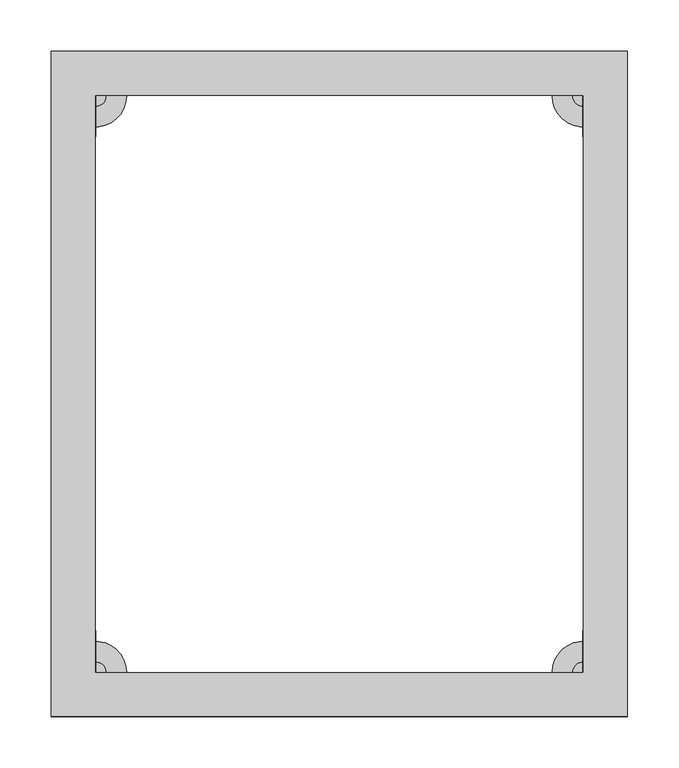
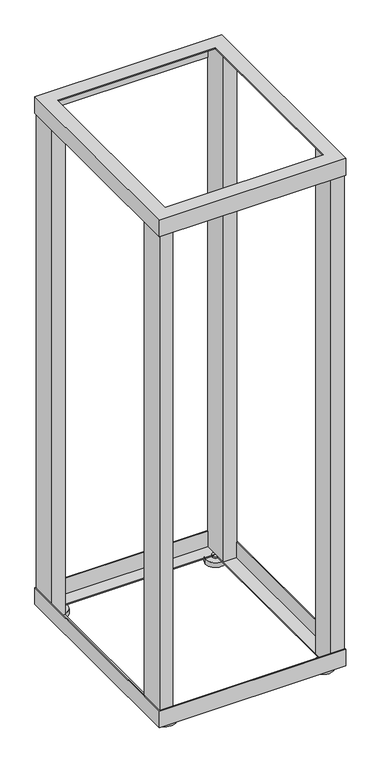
"""IFC4 building model written with IfcOpenShell, lengths in millimetres: proxy geometry, Шкафы ITK серия F : LF05-33U68-2R."""

from ifc_helpers import new_model, si_unit, point, frame, frame_2d, origin, origin_with_axes, place, context, project, spatial, polyline, circle_curve, trimmed, segment, composite_curve, outline, extrude, faceted_brep, source, transform, mapped, element, save


def electrical_fixtures_9c712314(model_context):
    return source(origin(), model_context, "Body", "SolidModel", [
        extrude(outline(composite_curve([segment(trimmed(circle_curve(frame_2d((-237.0, 280.0)), 10.0), [point((-227.0, 280.0))], [point((-247.0, 280.0))], False, "CARTESIAN"), True, "CONTINUOUS"), segment(trimmed(circle_curve(frame_2d((-237.0, 280.0)), 10.0), [point((-247.0, 280.0))], [point((-227.0, 280.0))], False, "CARTESIAN"), True, "CONTINUOUS")], self_intersect=False)), frame((0.0, 0.0, 15.0), z_axis=(0.0, 0.0, 1.0), x_axis=(1.0, 0.0, 0.0)), (0.0, 0.0, 1.0), 5.0),
        extrude(outline(composite_curve([segment(trimmed(circle_curve(frame_2d((237.0, 280.0)), 10.0), [point((247.0, 280.0))], [point((227.0, 280.0))], False, "CARTESIAN"), True, "CONTINUOUS"), segment(trimmed(circle_curve(frame_2d((237.0, 280.0)), 10.0), [point((227.0, 280.0))], [point((247.0, 280.0))], False, "CARTESIAN"), True, "CONTINUOUS")], self_intersect=False)), frame((0.0, 0.0, 15.0), z_axis=(0.0, 0.0, 1.0), x_axis=(1.0, 0.0, 0.0)), (0.0, 0.0, 1.0), 5.0),
        extrude(outline(composite_curve([segment(trimmed(circle_curve(frame_2d((-237.0, -280.0)), 10.0), [point((-227.0, -280.0))], [point((-247.0, -280.0))], False, "CARTESIAN"), True, "CONTINUOUS"), segment(trimmed(circle_curve(frame_2d((-237.0, -280.0)), 10.0), [point((-247.0, -280.0))], [point((-227.0, -280.0))], False, "CARTESIAN"), True, "CONTINUOUS")], self_intersect=False)), frame((0.0, 0.0, 15.0), z_axis=(0.0, 0.0, 1.0), x_axis=(1.0, 0.0, 0.0)), (0.0, 0.0, 1.0), 5.0),
        extrude(outline(composite_curve([segment(trimmed(circle_curve(frame_2d((237.0, -280.0)), 10.0), [point((247.0, -280.0))], [point((227.0, -280.0))], False, "CARTESIAN"), True, "CONTINUOUS"), segment(trimmed(circle_curve(frame_2d((237.0, -280.0)), 10.0), [point((227.0, -280.0))], [point((247.0, -280.0))], False, "CARTESIAN"), True, "CONTINUOUS")], self_intersect=False)), frame((0.0, 0.0, 15.0), z_axis=(0.0, 0.0, 1.0), x_axis=(1.0, 0.0, 0.0)), (0.0, 0.0, 1.0), 5.0),
        extrude(outline(composite_curve([segment(trimmed(circle_curve(frame_2d((-237.0, 280.0)), 30.0), [point((-207.0, 280.0))], [point((-267.0, 280.0))], False, "CARTESIAN"), True, "CONTINUOUS"), segment(trimmed(circle_curve(frame_2d((-237.0, 280.0)), 30.0), [point((-267.0, 280.0))], [point((-207.0, 280.0))], False, "CARTESIAN"), True, "CONTINUOUS")], self_intersect=False)), origin_with_axes(), (0.0, 0.0, 1.0), 15.0),
        extrude(outline(composite_curve([segment(trimmed(circle_curve(frame_2d((237.0, 280.0)), 30.0), [point((267.0, 280.0))], [point((207.0, 280.0))], False, "CARTESIAN"), True, "CONTINUOUS"), segment(trimmed(circle_curve(frame_2d((237.0, 280.0)), 30.0), [point((207.0, 280.0))], [point((267.0, 280.0))], False, "CARTESIAN"), True, "CONTINUOUS")], self_intersect=False)), origin_with_axes(), (0.0, 0.0, 1.0), 15.0),
        extrude(outline(composite_curve([segment(trimmed(circle_curve(frame_2d((-237.0, -280.0)), 30.0), [point((-207.0, -280.0))], [point((-267.0, -280.0))], False, "CARTESIAN"), True, "CONTINUOUS"), segment(trimmed(circle_curve(frame_2d((-237.0, -280.0)), 30.0), [point((-267.0, -280.0))], [point((-207.0, -280.0))], False, "CARTESIAN"), True, "CONTINUOUS")], self_intersect=False)), origin_with_axes(), (0.0, 0.0, 1.0), 15.0),
        extrude(outline(composite_curve([segment(trimmed(circle_curve(frame_2d((237.0, -280.0)), 30.0), [point((267.0, -280.0))], [point((207.0, -280.0))], False, "CARTESIAN"), True, "CONTINUOUS"), segment(trimmed(circle_curve(frame_2d((237.0, -280.0)), 30.0), [point((207.0, -280.0))], [point((267.0, -280.0))], False, "CARTESIAN"), True, "CONTINUOUS")], self_intersect=False)), origin_with_axes(), (0.0, 0.0, 1.0), 15.0),
        faceted_brep([(237.0, 280.0, 1627.0), (237.0, 280.0, 1624.0), (237.0, -280.0, 1624.0), (237.0, -280.0, 1627.0), (280.0, 323.0, 1574.0), (280.0, 323.0, 1627.0), (280.0, -323.0, 1627.0), (280.0, -323.0, 1574.0), (277.0, 320.0, 1624.0), (277.0, 320.0, 1574.0), (277.0, -320.0, 1574.0), (277.0, -320.0, 1624.0), (-237.0, -280.0, 1624.0), (-237.0, -280.0, 1627.0), (-280.0, -323.0, 1627.0), (-280.0, -323.0, 1574.0), (-277.0, -320.0, 1574.0), (-277.0, -320.0, 1624.0), (-237.0, 280.0, 1624.0), (-237.0, 280.0, 1627.0), (-280.0, 323.0, 1627.0), (-280.0, 323.0, 1574.0), (-277.0, 320.0, 1574.0), (-277.0, 320.0, 1624.0)], [[[0, 1, 2, 3]], [[4, 5, 6, 7]], [[8, 9, 10, 11]], [[3, 2, 12, 13]], [[7, 6, 14, 15]], [[11, 10, 16, 17]], [[13, 12, 18, 19]], [[15, 14, 20, 21]], [[17, 16, 22, 23]], [[19, 18, 1, 0]], [[5, 20, 14, 6], [3, 13, 19, 0]], [[21, 20, 5, 4]], [[7, 15, 21, 4], [9, 22, 16, 10]], [[23, 22, 9, 8]], [[11, 17, 23, 8], [1, 18, 12, 2]]]),
        faceted_brep([(280.0, 323.0, 17.0), (280.0, 323.0, 70.0), (280.0, -323.0, 70.0), (280.0, -323.0, 17.0), (237.0, 280.0, 20.0), (237.0, 280.0, 17.0), (237.0, -280.0, 17.0), (237.0, -280.0, 20.0), (277.0, 320.0, 70.0), (277.0, 320.0, 20.0), (277.0, -320.0, 20.0), (277.0, -320.0, 70.0), (-280.0, -323.0, 70.0), (-280.0, -323.0, 17.0), (-237.0, -280.0, 17.0), (-237.0, -280.0, 20.0), (-277.0, -320.0, 20.0), (-277.0, -320.0, 70.0), (-280.0, 323.0, 70.0), (-280.0, 323.0, 17.0), (-237.0, 280.0, 17.0), (-237.0, 280.0, 20.0), (-277.0, 320.0, 20.0), (-277.0, 320.0, 70.0)], [[[0, 1, 2, 3]], [[4, 5, 6, 7]], [[8, 9, 10, 11]], [[3, 2, 12, 13]], [[7, 6, 14, 15]], [[11, 10, 16, 17]], [[13, 12, 18, 19]], [[15, 14, 20, 21]], [[17, 16, 22, 23]], [[1, 18, 12, 2], [11, 17, 23, 8]], [[19, 18, 1, 0]], [[3, 13, 19, 0], [5, 20, 14, 6]], [[21, 20, 5, 4]], [[9, 22, 16, 10], [7, 15, 21, 4]], [[23, 22, 9, 8]]]),
        extrude(outline(polyline([(-237.0, -240.0), (-237.0, -320.0), (-277.0, -320.0), (-277.0, -240.0), (-237.0, -240.0)]), holes=[polyline([(-240.0, -243.0), (-274.0, -243.0), (-274.0, -317.0), (-240.0, -317.0), (-240.0, -243.0)])]), frame((0.0, 0.0, 20.0), z_axis=(0.0, 0.0, 1.0), x_axis=(1.0, 0.0, 0.0)), (0.0, 0.0, 1.0), 1604.0),
        extrude(outline(polyline([(237.0, 240.0), (237.0, 320.0), (277.0, 320.0), (277.0, 240.0), (237.0, 240.0)]), holes=[polyline([(274.0, 243.0), (274.0, 317.0), (240.0, 317.0), (240.0, 243.0), (274.0, 243.0)])]), frame((0.0, 0.0, 20.0), z_axis=(0.0, 0.0, 1.0), x_axis=(1.0, 0.0, 0.0)), (0.0, 0.0, 1.0), 1604.0),
        extrude(outline(polyline([(-237.0, 240.0), (-277.0, 240.0), (-277.0, 320.0), (-237.0, 320.0), (-237.0, 240.0)]), holes=[polyline([(-274.0, 317.0), (-274.0, 243.0), (-240.0, 243.0), (-240.0, 317.0), (-274.0, 317.0)])]), frame((0.0, 0.0, 20.0), z_axis=(0.0, 0.0, 1.0), x_axis=(1.0, 0.0, 0.0)), (0.0, 0.0, 1.0), 1604.0),
        extrude(outline(polyline([(237.0, -240.0), (277.0, -240.0), (277.0, -320.0), (237.0, -320.0), (237.0, -240.0)]), holes=[polyline([(274.0, -317.0), (274.0, -243.0), (240.0, -243.0), (240.0, -317.0), (274.0, -317.0)])]), frame((0.0, 0.0, 20.0), z_axis=(0.0, 0.0, 1.0), x_axis=(1.0, 0.0, 0.0)), (0.0, 0.0, 1.0), 1604.0),
    ])


if __name__ == "__main__":
    model = new_model("IFC4")
    model_context = context("Model", 3, world=origin())
    ifc_project = project(units=[si_unit("LENGTHUNIT", "METRE", prefix="MILLI")], contexts=[model_context])
    site = spatial("IfcSite", under=ifc_project)
    building = spatial("IfcBuilding", under=site)
    placement = place(None, origin())
    electrical_fixtures_shape = electrical_fixtures_9c712314(model_context)
    element("IfcBuildingElementProxy", 1, Name="Шкафы ITK серия F : LF05-33U68-2R", ObjectType="Шкафы ITK серия F : LF05-33U68-2R", at=placement, inside=building, context=model_context, shape_type="MappedRepresentation", body=[
        mapped(electrical_fixtures_shape, transform((0.0, 0.0, 0.0), x_axis=(1.0, 0.0, 0.0), y_axis=(0.0, 1.0, 0.0), z_axis=(0.0, 0.0, 1.0))),
    ])
    save(model, "model.ifc")
